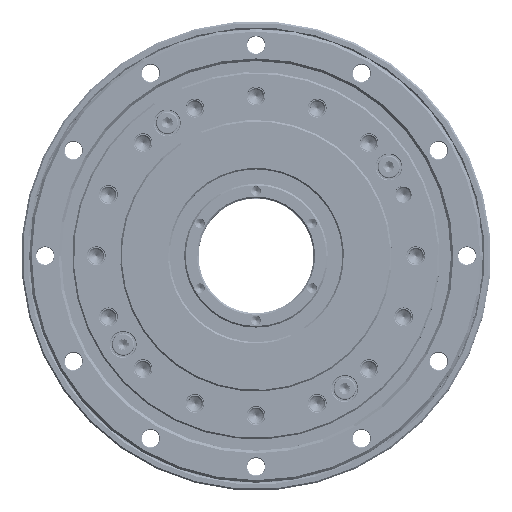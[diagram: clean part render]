
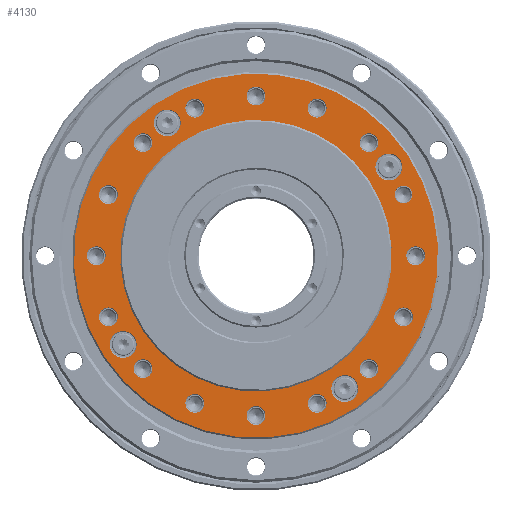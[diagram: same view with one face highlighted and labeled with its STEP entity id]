
A CAD part, top view. The second image highlights one B-rep face of the part: STEP entity #4130.
In plain terms, the highlighted planar face has unit normal (0, 0, 1).
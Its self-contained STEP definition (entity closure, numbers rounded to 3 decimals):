
#4130=ADVANCED_FACE('',(#5854,#5855,#5856,#5857,#5858,#5859,#5860,#5861,
#5862,#5863,#5864,#5865,#5866,#5867,#5868,#5869,#5870,#5871,#5872,#5873,
#5874,#5875),#4694,.T.);
#4694=PLANE('',#17131);
#5854=FACE_BOUND('',#7774,.T.);
#5855=FACE_BOUND('',#7775,.T.);
#5856=FACE_BOUND('',#7776,.T.);
#5857=FACE_BOUND('',#7777,.T.);
#5858=FACE_BOUND('',#7778,.T.);
#5859=FACE_BOUND('',#7779,.T.);
#5860=FACE_BOUND('',#7780,.T.);
#5861=FACE_BOUND('',#7781,.T.);
#5862=FACE_BOUND('',#7782,.T.);
#5863=FACE_BOUND('',#7783,.T.);
#5864=FACE_BOUND('',#7784,.T.);
#5865=FACE_BOUND('',#7785,.T.);
#5866=FACE_BOUND('',#7786,.T.);
#5867=FACE_BOUND('',#7787,.T.);
#5868=FACE_BOUND('',#7788,.T.);
#5869=FACE_BOUND('',#7789,.T.);
#5870=FACE_BOUND('',#7790,.T.);
#5871=FACE_BOUND('',#7791,.T.);
#5872=FACE_BOUND('',#7792,.T.);
#5873=FACE_BOUND('',#7793,.T.);
#5874=FACE_BOUND('',#7794,.T.);
#5875=FACE_BOUND('',#7795,.T.);
#7774=EDGE_LOOP('',(#10568));
#7775=EDGE_LOOP('',(#10569));
#7776=EDGE_LOOP('',(#10570));
#7777=EDGE_LOOP('',(#10571));
#7778=EDGE_LOOP('',(#10572));
#7779=EDGE_LOOP('',(#10573));
#7780=EDGE_LOOP('',(#10574));
#7781=EDGE_LOOP('',(#10575));
#7782=EDGE_LOOP('',(#10576));
#7783=EDGE_LOOP('',(#10577));
#7784=EDGE_LOOP('',(#10578));
#7785=EDGE_LOOP('',(#10579));
#7786=EDGE_LOOP('',(#10580));
#7787=EDGE_LOOP('',(#10581));
#7788=EDGE_LOOP('',(#10582));
#7789=EDGE_LOOP('',(#10583));
#7790=EDGE_LOOP('',(#10584));
#7791=EDGE_LOOP('',(#10585));
#7792=EDGE_LOOP('',(#10586));
#7793=EDGE_LOOP('',(#10587));
#7794=EDGE_LOOP('',(#10588));
#7795=EDGE_LOOP('',(#10589));
#10568=ORIENTED_EDGE('',*,*,#14028,.T.);
#10569=ORIENTED_EDGE('',*,*,#14029,.T.);
#10570=ORIENTED_EDGE('',*,*,#14030,.T.);
#10571=ORIENTED_EDGE('',*,*,#14031,.T.);
#10572=ORIENTED_EDGE('',*,*,#14032,.T.);
#10573=ORIENTED_EDGE('',*,*,#14033,.T.);
#10574=ORIENTED_EDGE('',*,*,#14034,.T.);
#10575=ORIENTED_EDGE('',*,*,#14035,.T.);
#10576=ORIENTED_EDGE('',*,*,#14036,.T.);
#10577=ORIENTED_EDGE('',*,*,#14037,.T.);
#10578=ORIENTED_EDGE('',*,*,#14038,.T.);
#10579=ORIENTED_EDGE('',*,*,#14039,.T.);
#10580=ORIENTED_EDGE('',*,*,#14040,.T.);
#10581=ORIENTED_EDGE('',*,*,#14041,.T.);
#10582=ORIENTED_EDGE('',*,*,#14042,.T.);
#10583=ORIENTED_EDGE('',*,*,#14043,.T.);
#10584=ORIENTED_EDGE('',*,*,#14044,.T.);
#10585=ORIENTED_EDGE('',*,*,#14045,.T.);
#10586=ORIENTED_EDGE('',*,*,#14046,.T.);
#10587=ORIENTED_EDGE('',*,*,#14047,.F.);
#10588=ORIENTED_EDGE('',*,*,#14048,.T.);
#10589=ORIENTED_EDGE('',*,*,#14027,.F.);
#12510=VERTEX_POINT('',#26799);
#12511=VERTEX_POINT('',#26802);
#12512=VERTEX_POINT('',#26804);
#12513=VERTEX_POINT('',#26806);
#12514=VERTEX_POINT('',#26808);
#12515=VERTEX_POINT('',#26810);
#12516=VERTEX_POINT('',#26812);
#12517=VERTEX_POINT('',#26814);
#12518=VERTEX_POINT('',#26816);
#12519=VERTEX_POINT('',#26818);
#12520=VERTEX_POINT('',#26820);
#12521=VERTEX_POINT('',#26822);
#12522=VERTEX_POINT('',#26824);
#12523=VERTEX_POINT('',#26826);
#12524=VERTEX_POINT('',#26828);
#12525=VERTEX_POINT('',#26830);
#12526=VERTEX_POINT('',#26832);
#12527=VERTEX_POINT('',#26834);
#12528=VERTEX_POINT('',#26836);
#12529=VERTEX_POINT('',#26838);
#12530=VERTEX_POINT('',#26840);
#12531=VERTEX_POINT('',#26842);
#14027=EDGE_CURVE('',#12510,#12510,#15312,.T.);
#14028=EDGE_CURVE('',#12511,#12511,#15313,.T.);
#14029=EDGE_CURVE('',#12512,#12512,#15314,.T.);
#14030=EDGE_CURVE('',#12513,#12513,#15315,.T.);
#14031=EDGE_CURVE('',#12514,#12514,#15316,.T.);
#14032=EDGE_CURVE('',#12515,#12515,#15317,.T.);
#14033=EDGE_CURVE('',#12516,#12516,#15318,.T.);
#14034=EDGE_CURVE('',#12517,#12517,#15319,.T.);
#14035=EDGE_CURVE('',#12518,#12518,#15320,.T.);
#14036=EDGE_CURVE('',#12519,#12519,#15321,.T.);
#14037=EDGE_CURVE('',#12520,#12520,#15322,.T.);
#14038=EDGE_CURVE('',#12521,#12521,#15323,.T.);
#14039=EDGE_CURVE('',#12522,#12522,#15324,.T.);
#14040=EDGE_CURVE('',#12523,#12523,#15325,.T.);
#14041=EDGE_CURVE('',#12524,#12524,#15326,.T.);
#14042=EDGE_CURVE('',#12525,#12525,#15327,.T.);
#14043=EDGE_CURVE('',#12526,#12526,#15328,.T.);
#14044=EDGE_CURVE('',#12527,#12527,#15329,.T.);
#14045=EDGE_CURVE('',#12528,#12528,#15330,.T.);
#14046=EDGE_CURVE('',#12529,#12529,#15331,.T.);
#14047=EDGE_CURVE('',#12530,#12530,#15332,.T.);
#14048=EDGE_CURVE('',#12531,#12531,#15333,.T.);
#15312=CIRCLE('',#17108,57.);
#15313=CIRCLE('',#17110,2.95);
#15314=CIRCLE('',#17111,2.95);
#15315=CIRCLE('',#17112,2.95);
#15316=CIRCLE('',#17113,2.95);
#15317=CIRCLE('',#17114,2.95);
#15318=CIRCLE('',#17115,2.95);
#15319=CIRCLE('',#17116,2.95);
#15320=CIRCLE('',#17117,2.95);
#15321=CIRCLE('',#17118,2.95);
#15322=CIRCLE('',#17119,2.95);
#15323=CIRCLE('',#17120,2.95);
#15324=CIRCLE('',#17121,2.95);
#15325=CIRCLE('',#17122,2.95);
#15326=CIRCLE('',#17123,2.95);
#15327=CIRCLE('',#17124,2.95);
#15328=CIRCLE('',#17125,4.2);
#15329=CIRCLE('',#17126,4.2);
#15330=CIRCLE('',#17127,4.2);
#15331=CIRCLE('',#17128,4.2);
#15332=CIRCLE('',#17129,2.75);
#15333=CIRCLE('',#17130,42.5);
#17108=AXIS2_PLACEMENT_3D('',#26798,#20931,#20932);
#17110=AXIS2_PLACEMENT_3D('',#26801,#20935,#20936);
#17111=AXIS2_PLACEMENT_3D('',#26803,#20937,#20938);
#17112=AXIS2_PLACEMENT_3D('',#26805,#20939,#20940);
#17113=AXIS2_PLACEMENT_3D('',#26807,#20941,#20942);
#17114=AXIS2_PLACEMENT_3D('',#26809,#20943,#20944);
#17115=AXIS2_PLACEMENT_3D('',#26811,#20945,#20946);
#17116=AXIS2_PLACEMENT_3D('',#26813,#20947,#20948);
#17117=AXIS2_PLACEMENT_3D('',#26815,#20949,#20950);
#17118=AXIS2_PLACEMENT_3D('',#26817,#20951,#20952);
#17119=AXIS2_PLACEMENT_3D('',#26819,#20953,#20954);
#17120=AXIS2_PLACEMENT_3D('',#26821,#20955,#20956);
#17121=AXIS2_PLACEMENT_3D('',#26823,#20957,#20958);
#17122=AXIS2_PLACEMENT_3D('',#26825,#20959,#20960);
#17123=AXIS2_PLACEMENT_3D('',#26827,#20961,#20962);
#17124=AXIS2_PLACEMENT_3D('',#26829,#20963,#20964);
#17125=AXIS2_PLACEMENT_3D('',#26831,#20965,#20966);
#17126=AXIS2_PLACEMENT_3D('',#26833,#20967,#20968);
#17127=AXIS2_PLACEMENT_3D('',#26835,#20969,#20970);
#17128=AXIS2_PLACEMENT_3D('',#26837,#20971,#20972);
#17129=AXIS2_PLACEMENT_3D('',#26839,#20973,#20974);
#17130=AXIS2_PLACEMENT_3D('',#26841,#20975,#20976);
#17131=AXIS2_PLACEMENT_3D('',#26843,#20977,#20978);
#20931=DIRECTION('',(0.,0.,-1.));
#20932=DIRECTION('',(-1.,0.,0.));
#20935=DIRECTION('',(0.,0.,-1.));
#20936=DIRECTION('',(1.,0.,0.));
#20937=DIRECTION('',(0.,0.,-1.));
#20938=DIRECTION('',(1.,0.,0.));
#20939=DIRECTION('',(0.,0.,-1.));
#20940=DIRECTION('',(1.,0.,0.));
#20941=DIRECTION('',(0.,0.,-1.));
#20942=DIRECTION('',(1.,0.,0.));
#20943=DIRECTION('',(0.,0.,-1.));
#20944=DIRECTION('',(1.,0.,0.));
#20945=DIRECTION('',(0.,0.,-1.));
#20946=DIRECTION('',(1.,0.,0.));
#20947=DIRECTION('',(0.,0.,-1.));
#20948=DIRECTION('',(1.,0.,0.));
#20949=DIRECTION('',(0.,0.,-1.));
#20950=DIRECTION('',(1.,0.,0.));
#20951=DIRECTION('',(0.,0.,-1.));
#20952=DIRECTION('',(1.,0.,0.));
#20953=DIRECTION('',(0.,0.,-1.));
#20954=DIRECTION('',(1.,0.,0.));
#20955=DIRECTION('',(0.,0.,-1.));
#20956=DIRECTION('',(1.,0.,0.));
#20957=DIRECTION('',(0.,0.,-1.));
#20958=DIRECTION('',(1.,0.,0.));
#20959=DIRECTION('',(0.,0.,-1.));
#20960=DIRECTION('',(1.,0.,0.));
#20961=DIRECTION('',(0.,0.,-1.));
#20962=DIRECTION('',(1.,0.,0.));
#20963=DIRECTION('',(0.,0.,-1.));
#20964=DIRECTION('',(1.,0.,0.));
#20965=DIRECTION('',(0.,0.,-1.));
#20966=DIRECTION('',(1.,0.,0.));
#20967=DIRECTION('',(0.,0.,-1.));
#20968=DIRECTION('',(1.,0.,0.));
#20969=DIRECTION('',(0.,0.,-1.));
#20970=DIRECTION('',(1.,0.,0.));
#20971=DIRECTION('',(0.,0.,-1.));
#20972=DIRECTION('',(1.,0.,0.));
#20973=DIRECTION('',(0.,0.,1.));
#20974=DIRECTION('',(0.924,-0.383,0.));
#20975=DIRECTION('',(0.,0.,-1.));
#20976=DIRECTION('',(-1.,0.,0.));
#20977=DIRECTION('',(0.,0.,1.));
#20978=DIRECTION('',(1.,0.,0.));
#26798=CARTESIAN_POINT('',(0.,0.,9.5));
#26799=CARTESIAN_POINT('',(-57.,0.,9.5));
#26801=CARTESIAN_POINT('',(-49.039,9.755,9.5));
#26802=CARTESIAN_POINT('',(-46.089,9.755,9.5));
#26803=CARTESIAN_POINT('',(9.755,49.039,9.5));
#26804=CARTESIAN_POINT('',(12.705,49.039,9.5));
#26805=CARTESIAN_POINT('',(27.779,41.573,9.5));
#26806=CARTESIAN_POINT('',(30.729,41.573,9.5));
#26807=CARTESIAN_POINT('',(41.573,27.779,9.5));
#26808=CARTESIAN_POINT('',(44.523,27.779,9.5));
#26809=CARTESIAN_POINT('',(49.039,9.755,9.5));
#26810=CARTESIAN_POINT('',(51.989,9.755,9.5));
#26811=CARTESIAN_POINT('',(41.573,-27.779,9.5));
#26812=CARTESIAN_POINT('',(44.523,-27.779,9.5));
#26813=CARTESIAN_POINT('',(27.779,-41.573,9.5));
#26814=CARTESIAN_POINT('',(30.729,-41.573,9.5));
#26815=CARTESIAN_POINT('',(9.755,-49.039,9.5));
#26816=CARTESIAN_POINT('',(12.705,-49.039,9.5));
#26817=CARTESIAN_POINT('',(-9.755,-49.039,9.5));
#26818=CARTESIAN_POINT('',(-6.805,-49.039,9.5));
#26819=CARTESIAN_POINT('',(-27.779,-41.573,9.5));
#26820=CARTESIAN_POINT('',(-24.829,-41.573,9.5));
#26821=CARTESIAN_POINT('',(-41.573,-27.779,9.5));
#26822=CARTESIAN_POINT('',(-38.623,-27.779,9.5));
#26823=CARTESIAN_POINT('',(-49.039,-9.755,9.5));
#26824=CARTESIAN_POINT('',(-46.089,-9.755,9.5));
#26825=CARTESIAN_POINT('',(-41.573,27.779,9.5));
#26826=CARTESIAN_POINT('',(-38.623,27.779,9.5));
#26827=CARTESIAN_POINT('',(-27.779,41.573,9.5));
#26828=CARTESIAN_POINT('',(-24.829,41.573,9.5));
#26829=CARTESIAN_POINT('',(-9.755,49.039,9.5));
#26830=CARTESIAN_POINT('',(-6.805,49.039,9.5));
#26831=CARTESIAN_POINT('',(0.,-50.,9.5));
#26832=CARTESIAN_POINT('',(4.2,-50.,9.5));
#26833=CARTESIAN_POINT('',(50.,0.,9.5));
#26834=CARTESIAN_POINT('',(54.2,0.,9.5));
#26835=CARTESIAN_POINT('',(-50.,0.,9.5));
#26836=CARTESIAN_POINT('',(-45.8,0.,9.5));
#26837=CARTESIAN_POINT('',(0.,50.,9.5));
#26838=CARTESIAN_POINT('',(4.2,50.,9.5));
#26839=CARTESIAN_POINT('',(49.039,-9.755,9.5));
#26840=CARTESIAN_POINT('',(51.58,-10.807,9.5));
#26841=CARTESIAN_POINT('',(0.,0.,9.5));
#26842=CARTESIAN_POINT('',(-42.5,0.,9.5));
#26843=CARTESIAN_POINT('',(57.,0.,9.5));
